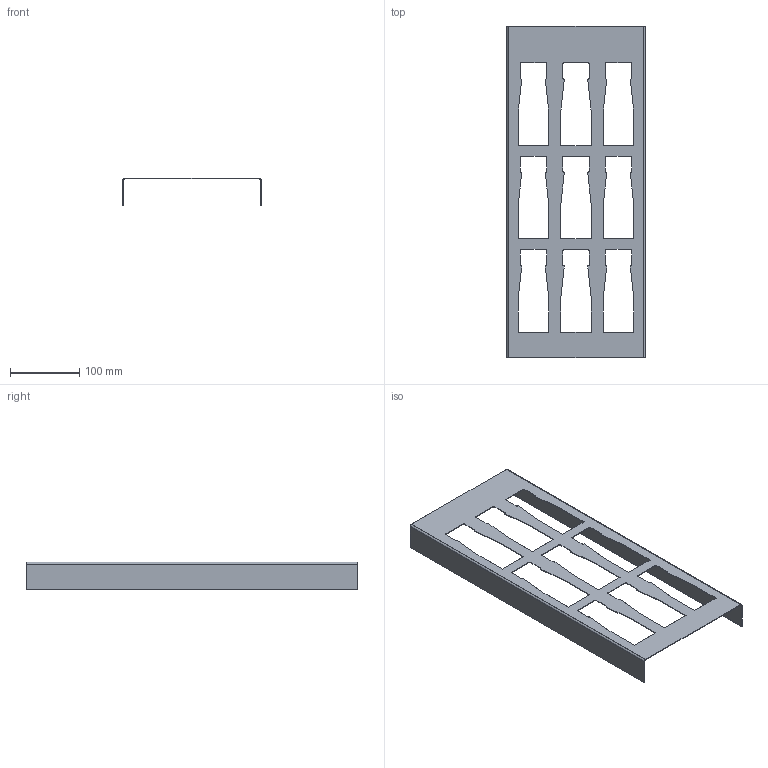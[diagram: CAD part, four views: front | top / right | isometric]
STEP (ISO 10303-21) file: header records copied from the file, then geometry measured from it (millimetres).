
FILE_DESCRIPTION (( 'STEP AP214' ), '1' );
FILE_NAME ('Gewuerzeinsatz_68329-01.STEP', '2010-10-25T13:56:37', ( 'grass' ), ( '' ), 'SwSTEP 2.0', 'SolidWorks 2010', '' );
FILE_SCHEMA (( 'AUTOMOTIVE_DESIGN' ));
Length unit declared in the file: millimetre
Products named in the file (1): Gewuerzeinsatz_68329-01
Bounding box: 200 x 479 x 40 mm (x, y, z)
Volume: 88011 mm3; surface area: 180439.6 mm2
Topology: 1 solids, 1 shells, 122 faces, 360 edges, 240 vertices
Faces by surface type: plane 82, cylinder 40
Entity records: 4134 total; most frequent: CARTESIAN_POINT 723, ORIENTED_EDGE 720, DIRECTION 686, EDGE_CURVE 360, VECTOR 280, LINE 280, VERTEX_POINT 240, AXIS2_PLACEMENT_3D 203
